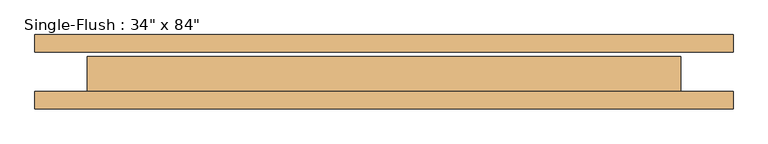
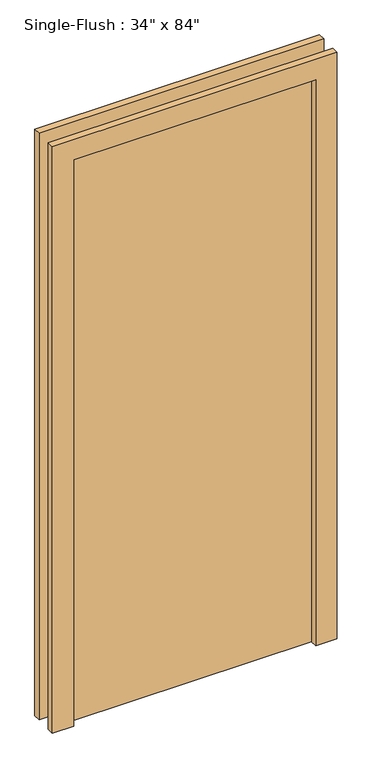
"""IFC4 building model written with IfcOpenShell, lengths in millimetres: door geometry."""

from ifc_helpers import new_model, si_unit, frame, origin, origin_with_axes, place, context, project, spatial, polyline, outline, extrude, source, transform, mapped, element, save


def door_d84f83c7(model_context):
    return source(origin(), model_context, "Body", "SweptSolid", [
        extrude(outline(polyline([(2209.8, -508.0), (0.0, -508.0), (0.0, -431.8), (2133.6, -431.8), (2133.6, 431.8), (0.0, 431.8), (0.0, 508.0), (2209.8, 508.0), (2209.8, -508.0)])), frame((0.0, -53.975, 0.0), z_axis=(0.0, 1.0, 0.0), x_axis=(0.0, 0.0, 1.0)), (0.0, 0.0, 1.0), 25.4),
        extrude(outline(polyline([(2209.8, 508.0), (2209.8, -508.0), (0.0, -508.0), (0.0, -431.8), (2133.6, -431.8), (2133.6, 431.8), (0.0, 431.8), (0.0, 508.0), (2209.8, 508.0)])), frame((0.0, 28.575, 0.0), z_axis=(0.0, 1.0, 0.0), x_axis=(0.0, 0.0, 1.0)), (0.0, 0.0, 1.0), 25.4),
        extrude(outline(polyline([(431.8, 22.225), (431.8, -28.575), (-431.8, -28.575), (-431.8, 22.225), (431.8, 22.225)])), origin_with_axes(), (0.0, 0.0, 1.0), 2133.6),
    ])


if __name__ == "__main__":
    model = new_model("IFC4")
    model_context = context("Model", 3, world=origin())
    ifc_project = project(units=[si_unit("LENGTHUNIT", "METRE", prefix="MILLI")], contexts=[model_context])
    site = spatial("IfcSite", under=ifc_project)
    building = spatial("IfcBuilding", under=site)
    placement = place(None, origin())
    door_shape = door_d84f83c7(model_context)
    element("IfcDoor", 1, ObjectType="Single-Flush : 34\" x 84\"", at=placement, inside=building, context=model_context, shape_type="MappedRepresentation", body=[
        mapped(door_shape, transform((0.0, 0.0, 0.0), x_axis=(1.0, 0.0, 0.0), y_axis=(0.0, 1.0, 0.0), z_axis=(0.0, 0.0, 1.0))),
    ])
    save(model, "model.ifc")
